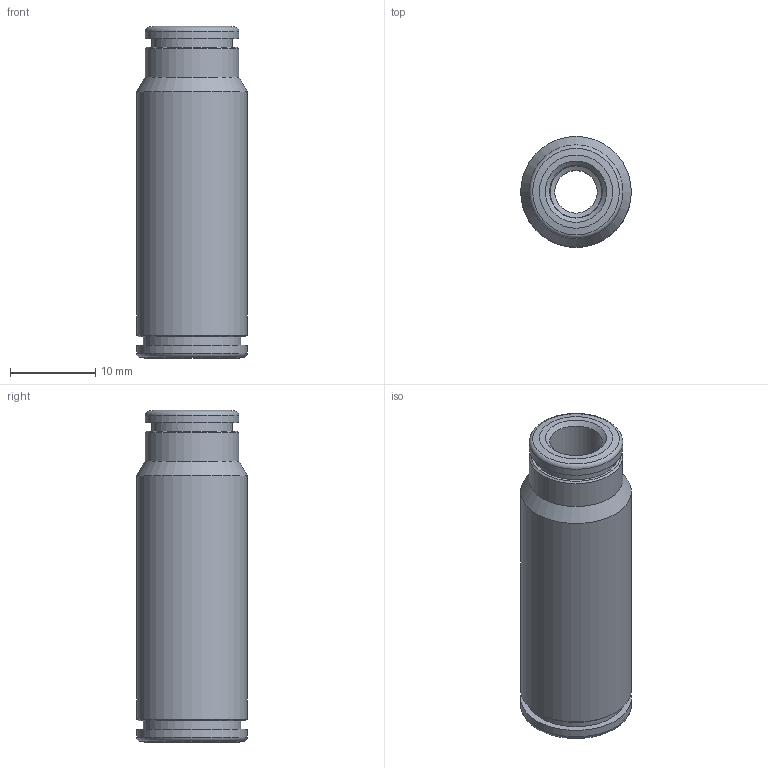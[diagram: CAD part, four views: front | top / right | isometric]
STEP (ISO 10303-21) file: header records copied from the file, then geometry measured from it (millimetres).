
FILE_DESCRIPTION(('Bauteilbeschreibung','HiCAD-Model','HiCAD-STEP-TRANSLATION','Bauteilbeschreibung'),'2;1');
FILE_NAME('B:/ABGLEICH/ZEICHNUNGEN/STEP FÜR INTERNET/STEP/200309_IPSO_03_8_6.STP','2011-07-19T09:13:30+00:00',('Konstrukteur'),('Konstrukteur Firma GmbH'),' HiCAD neXt 2008, Step 3.1.1401.2J ','HiCAD neXt 2008','confidential');
FILE_SCHEMA(('AUTOMOTIVE_DESIGN { 1 2 10303 214 0 1 1 1 }'));
Length unit declared in the file: millimetre
Products named in the file (4): A00309_IPSO_03_8_6; DR6_1_NEU; DR8_1_NEU; R200309
Assembly tree (3 placements, depth 2):
  A00309_IPSO_03_8_6
    DR6_1_NEU
    DR8_1_NEU
    R200309
Bounding box: 13 x 13 x 39 mm (x, y, z)
Volume: 2901 mm3; surface area: 3684.6 mm2
Topology: 3 solids, 3 shells, 48 faces, 90 edges, 52 vertices
Faces by surface type: cone 19, cylinder 17, plane 10, torus 2
Full cylindrical faces by diameter (mm): 5 x1, 6.1 x1, 6.2 x1, 8.1 x1, 8.2 x1, 8.3 x1, 9 x1, 9.5 x1, 9.6 x1, 10.1 x1, 11 x3, 11.5 x1, 11.6 x1, 13 x2
Entity records: 1321 total; most frequent: DIRECTION 204, CARTESIAN_POINT 150, AXIS2_PLACEMENT_3D 102, EDGE_LOOP 96, ORIENTED_EDGE 96, COLOUR_RGB 51, PRESENTATION_STYLE_ASSIGNMENT 51, ADVANCED_FACE 48
